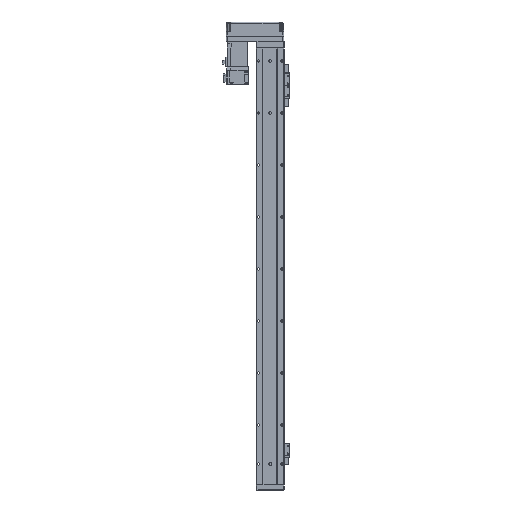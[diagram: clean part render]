
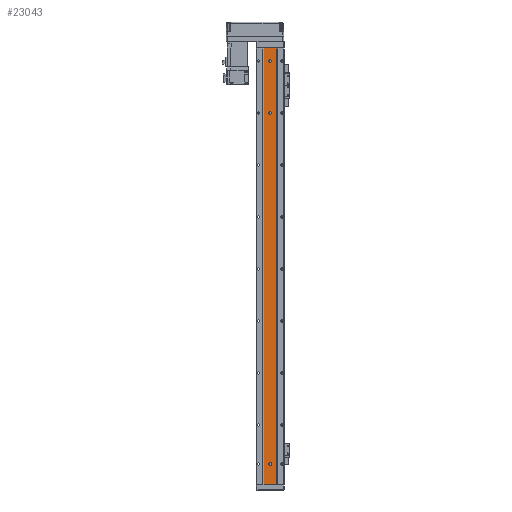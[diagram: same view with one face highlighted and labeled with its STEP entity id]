
A CAD part, front view. The second image highlights one B-rep face of the part: STEP entity #23043.
In plain terms, the highlighted planar face has unit normal (0, -1, 0).
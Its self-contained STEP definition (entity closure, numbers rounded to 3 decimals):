
#53 = FACE_BOUND ( 'NONE', #10669, .T. ) ;
#560 = CIRCLE ( 'NONE', #14342, 2.5 ) ;
#782 = CIRCLE ( 'NONE', #5779, 2.5 ) ;
#786 = CARTESIAN_POINT ( 'NONE',  ( 12.293, 1.5, -840. ) ) ;
#1019 = VERTEX_POINT ( 'NONE', #22559 ) ;
#1534 = CIRCLE ( 'NONE', #10617, 2.5 ) ;
#2060 = DIRECTION ( 'NONE',  ( 0., -1., 0. ) ) ;
#2944 = FACE_BOUND ( 'NONE', #23629, .T. ) ;
#3112 = EDGE_CURVE ( 'NONE', #24917, #29079, #29655, .T. ) ;
#3865 = FACE_OUTER_BOUND ( 'NONE', #3920, .T. ) ;
#3920 = EDGE_LOOP ( 'NONE', ( #5385, #26606, #8228, #25683 ) ) ;
#3988 = DIRECTION ( 'NONE',  ( 1., 0., 0. ) ) ;
#5002 = VERTEX_POINT ( 'NONE', #12464 ) ;
#5014 = DIRECTION ( 'NONE',  ( 0., 0., -1. ) ) ;
#5385 = ORIENTED_EDGE ( 'NONE', *, *, #8988, .F. ) ;
#5626 = ORIENTED_EDGE ( 'NONE', *, *, #14269, .F. ) ;
#5779 = AXIS2_PLACEMENT_3D ( 'NONE', #20331, #2060, #23147 ) ;
#6824 = CARTESIAN_POINT ( 'NONE',  ( 2.5, 1.5, -801. ) ) ;
#7445 = EDGE_CURVE ( 'NONE', #26056, #5002, #39596, .T. ) ;
#7726 = CARTESIAN_POINT ( 'NONE',  ( 0., 1.5, -25. ) ) ;
#7915 = AXIS2_PLACEMENT_3D ( 'NONE', #11690, #17747, #20700 ) ;
#8149 = CARTESIAN_POINT ( 'NONE',  ( -12.293, 1.5, -840. ) ) ;
#8228 = ORIENTED_EDGE ( 'NONE', *, *, #11705, .T. ) ;
#8697 = DIRECTION ( 'NONE',  ( 1., 0., 0. ) ) ;
#8988 = EDGE_CURVE ( 'NONE', #22630, #5002, #28999, .T. ) ;
#9055 = CARTESIAN_POINT ( 'NONE',  ( 2.5, 1.5, -799. ) ) ;
#9765 = LINE ( 'NONE', #34039, #24604 ) ;
#9955 = CARTESIAN_POINT ( 'NONE',  ( 12.293, 1.5, -840. ) ) ;
#10617 = AXIS2_PLACEMENT_3D ( 'NONE', #20621, #29845, #8697 ) ;
#10669 = EDGE_LOOP ( 'NONE', ( #39308, #13304 ) ) ;
#11086 = CARTESIAN_POINT ( 'NONE',  ( -2.5, 1.5, -799. ) ) ;
#11175 = DIRECTION ( 'NONE',  ( 1., 0., 0. ) ) ;
#11552 = DIRECTION ( 'NONE',  ( 1., 0., 0. ) ) ;
#11690 = CARTESIAN_POINT ( 'NONE',  ( 0., 1.5, -125. ) ) ;
#11705 = EDGE_CURVE ( 'NONE', #27003, #26056, #37949, .T. ) ;
#12152 = ORIENTED_EDGE ( 'NONE', *, *, #37942, .F. ) ;
#12178 = EDGE_CURVE ( 'NONE', #27003, #22630, #27856, .T. ) ;
#12464 = CARTESIAN_POINT ( 'NONE',  ( 12.293, 1.5, 0. ) ) ;
#12610 = VECTOR ( 'NONE', #5014, 1000. ) ;
#12663 = EDGE_CURVE ( 'NONE', #14112, #1019, #560, .T. ) ;
#12972 = DIRECTION ( 'NONE',  ( 0., 0., 1. ) ) ;
#13046 = EDGE_CURVE ( 'NONE', #31946, #18823, #15762, .T. ) ;
#13078 = DIRECTION ( 'NONE',  ( 1., 0., 0. ) ) ;
#13304 = ORIENTED_EDGE ( 'NONE', *, *, #12663, .F. ) ;
#13955 = VECTOR ( 'NONE', #22626, 1000. ) ;
#14112 = VERTEX_POINT ( 'NONE', #28338 ) ;
#14269 = EDGE_CURVE ( 'NONE', #29079, #24917, #782, .T. ) ;
#14342 = AXIS2_PLACEMENT_3D ( 'NONE', #14531, #23266, #11175 ) ;
#14531 = CARTESIAN_POINT ( 'NONE',  ( 0., 1.5, -125. ) ) ;
#15097 = ORIENTED_EDGE ( 'NONE', *, *, #13046, .F. ) ;
#15762 = CIRCLE ( 'NONE', #38739, 2.5 ) ;
#16396 = DIRECTION ( 'NONE',  ( 1., 0., 0. ) ) ;
#16399 = DIRECTION ( 'NONE',  ( 0., -1., 0. ) ) ;
#16694 = CARTESIAN_POINT ( 'NONE',  ( 12.293, 1.5, 0. ) ) ;
#16781 = DIRECTION ( 'NONE',  ( 1., 0., 0. ) ) ;
#17620 = EDGE_CURVE ( 'NONE', #18823, #29747, #25112, .T. ) ;
#17747 = DIRECTION ( 'NONE',  ( 0., -1., 0. ) ) ;
#17973 = VECTOR ( 'NONE', #11552, 1000. ) ;
#18320 = CIRCLE ( 'NONE', #7915, 2.5 ) ;
#18823 = VERTEX_POINT ( 'NONE', #11086 ) ;
#18874 = PLANE ( 'NONE',  #32291 ) ;
#19049 = CARTESIAN_POINT ( 'NONE',  ( 2.5, 1.5, -25. ) ) ;
#19144 = CARTESIAN_POINT ( 'NONE',  ( 12.293, 1.5, -840. ) ) ;
#20331 = CARTESIAN_POINT ( 'NONE',  ( 0., 1.5, -25. ) ) ;
#20621 = CARTESIAN_POINT ( 'NONE',  ( 0., 1.5, -801. ) ) ;
#20700 = DIRECTION ( 'NONE',  ( 1., 0., 0. ) ) ;
#21056 = ORIENTED_EDGE ( 'NONE', *, *, #35318, .F. ) ;
#22559 = CARTESIAN_POINT ( 'NONE',  ( 2.5, 1.5, -125. ) ) ;
#22626 = DIRECTION ( 'NONE',  ( 0., 0., 1. ) ) ;
#22630 = VERTEX_POINT ( 'NONE', #29099 ) ;
#22802 = CARTESIAN_POINT ( 'NONE',  ( 12.293, 1.5, -840. ) ) ;
#23043 = ADVANCED_FACE ( 'NONE', ( #2944, #53, #28219, #3865 ), #18874, .T. ) ;
#23147 = DIRECTION ( 'NONE',  ( 1., 0., 0. ) ) ;
#23266 = DIRECTION ( 'NONE',  ( 0., -1., 0. ) ) ;
#23355 = VECTOR ( 'NONE', #12972, 1000. ) ;
#23629 = EDGE_LOOP ( 'NONE', ( #12152, #29766, #15097, #21056 ) ) ;
#24604 = VECTOR ( 'NONE', #27608, 1000. ) ;
#24701 = EDGE_CURVE ( 'NONE', #1019, #14112, #18320, .T. ) ;
#24917 = VERTEX_POINT ( 'NONE', #19049 ) ;
#24986 = AXIS2_PLACEMENT_3D ( 'NONE', #7726, #38367, #16396 ) ;
#25112 = LINE ( 'NONE', #35375, #12610 ) ;
#25683 = ORIENTED_EDGE ( 'NONE', *, *, #7445, .T. ) ;
#26056 = VERTEX_POINT ( 'NONE', #9955 ) ;
#26606 = ORIENTED_EDGE ( 'NONE', *, *, #12178, .F. ) ;
#27003 = VERTEX_POINT ( 'NONE', #8149 ) ;
#27419 = VECTOR ( 'NONE', #16781, 1000. ) ;
#27608 = DIRECTION ( 'NONE',  ( 0., 0., 1. ) ) ;
#27856 = LINE ( 'NONE', #37858, #13955 ) ;
#28156 = CARTESIAN_POINT ( 'NONE',  ( 0., 1.5, -799. ) ) ;
#28219 = FACE_BOUND ( 'NONE', #33067, .T. ) ;
#28338 = CARTESIAN_POINT ( 'NONE',  ( -2.5, 1.5, -125. ) ) ;
#28952 = CARTESIAN_POINT ( 'NONE',  ( -2.5, 1.5, -25. ) ) ;
#28999 = LINE ( 'NONE', #16694, #17973 ) ;
#29079 = VERTEX_POINT ( 'NONE', #28952 ) ;
#29099 = CARTESIAN_POINT ( 'NONE',  ( -12.293, 1.5, 0. ) ) ;
#29655 = CIRCLE ( 'NONE', #24986, 2.5 ) ;
#29656 = VERTEX_POINT ( 'NONE', #6824 ) ;
#29747 = VERTEX_POINT ( 'NONE', #32256 ) ;
#29766 = ORIENTED_EDGE ( 'NONE', *, *, #17620, .F. ) ;
#29845 = DIRECTION ( 'NONE',  ( 0., -1., 0. ) ) ;
#31946 = VERTEX_POINT ( 'NONE', #9055 ) ;
#32256 = CARTESIAN_POINT ( 'NONE',  ( -2.5, 1.5, -801. ) ) ;
#32291 = AXIS2_PLACEMENT_3D ( 'NONE', #19144, #37472, #13078 ) ;
#33067 = EDGE_LOOP ( 'NONE', ( #34571, #5626 ) ) ;
#34039 = CARTESIAN_POINT ( 'NONE',  ( 2.5, 1.5, -840. ) ) ;
#34571 = ORIENTED_EDGE ( 'NONE', *, *, #3112, .F. ) ;
#35318 = EDGE_CURVE ( 'NONE', #29656, #31946, #9765, .T. ) ;
#35375 = CARTESIAN_POINT ( 'NONE',  ( -2.5, 1.5, -840. ) ) ;
#37472 = DIRECTION ( 'NONE',  ( 0., -1., 0. ) ) ;
#37858 = CARTESIAN_POINT ( 'NONE',  ( -12.293, 1.5, -840. ) ) ;
#37942 = EDGE_CURVE ( 'NONE', #29747, #29656, #1534, .T. ) ;
#37949 = LINE ( 'NONE', #22802, #27419 ) ;
#38367 = DIRECTION ( 'NONE',  ( 0., -1., 0. ) ) ;
#38739 = AXIS2_PLACEMENT_3D ( 'NONE', #28156, #16399, #3988 ) ;
#39308 = ORIENTED_EDGE ( 'NONE', *, *, #24701, .F. ) ;
#39596 = LINE ( 'NONE', #786, #23355 ) ;
